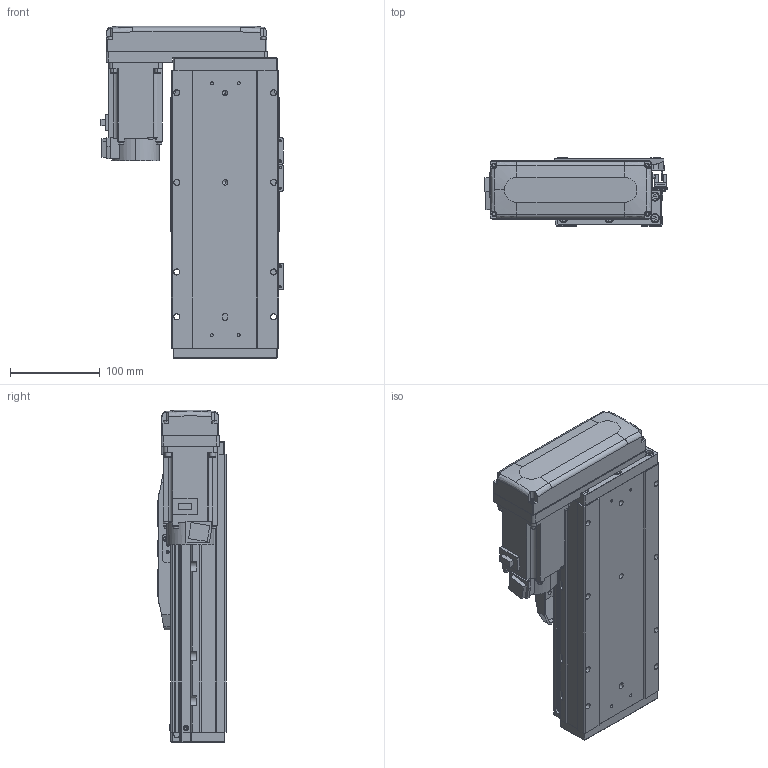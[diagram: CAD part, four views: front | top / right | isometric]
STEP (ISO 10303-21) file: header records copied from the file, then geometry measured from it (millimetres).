
FILE_DESCRIPTION (( 'STEP AP203' ), '1' );
FILE_NAME ('GTH12-100-BR-M40-C4.step', '2025-07-16T03:42:44', ( '' ), ( '' ), 'SwSTEP 2.0', 'SolidWorks 2023', '' );
FILE_SCHEMA (( 'CONFIG_CONTROL_DESIGN' ));
Length unit declared in the file: millimetre
Products named in the file (18): GBT 70.3-M3×8; CTHA86-033_M40B; GTH80-028; GTH120-001_100; GBT 70.1-M3×6; GTH120-004; BTH-M3X5X6; GBT 70.1-M5×16; GTH120-013; GTH50-023; GTH120-027-1_GTH120-027-2; hg-kn43j_-s100_; GTH12-100-BR-M40-C4; GTH120-006; GTH120-003; GTH80-022; GTH50-024; GBT96.1-2002 3×0.8
Assembly tree (59 placements, depth 2):
  GTH12-100-BR-M40-C4
    GTH120-001_100
    GTH120-003
    GTH120-006
    GTH120-004
    GTH120-013
    GBT 70.1-M3×6  x14
    GBT 70.1-M5×16  x10
    GBT 70.3-M3×8  x4
    GTH80-022
    GTH80-028  x2
    GTH50-023  x3
    GTH50-024  x3
    GBT96.1-2002 3×0.8  x6
    BTH-M3X5X6  x8
    hg-kn43j_-s100_
    CTHA86-033_M40B
    GTH120-027-1_GTH120-027-2
Bounding box: 203.5 x 76 x 370.5 mm (x, y, z)
Volume: 3268170 mm3; surface area: 403332.9 mm2
Topology: 61 solids, 61 shells, 2338 faces, 5417 edges, 3321 vertices
Faces by surface type: plane 1224, cylinder 654, cone 272, torus 174, sphere 8, bspline 6
Entity records: 42295 total; most frequent: CARTESIAN_POINT 7162, DIRECTION 6949, ORIENTED_EDGE 6444, EDGE_CURVE 3222, AXIS2_PLACEMENT_3D 2429, VECTOR 2091, LINE 2091, VERTEX_POINT 2042
